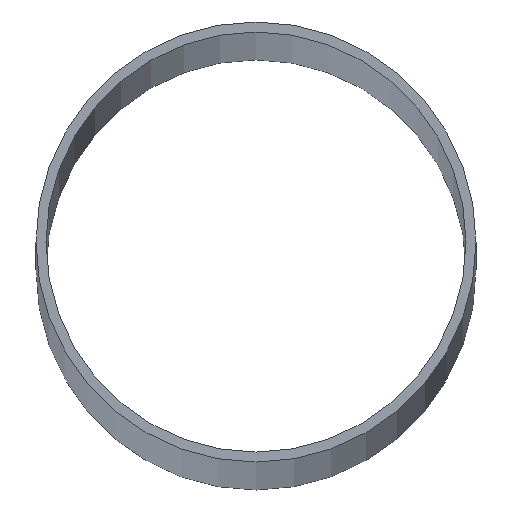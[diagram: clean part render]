
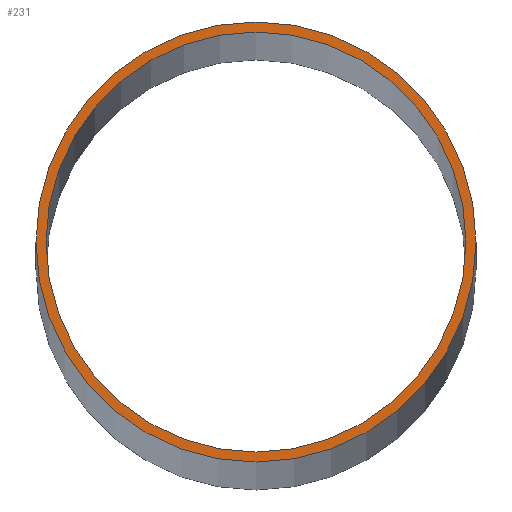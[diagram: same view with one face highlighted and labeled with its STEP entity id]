
A CAD part, top view. The second image highlights one B-rep face of the part: STEP entity #231.
In plain terms, the highlighted planar face has unit normal (0, 0, 1).
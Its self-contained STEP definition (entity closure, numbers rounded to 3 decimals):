
#3 = EDGE_CURVE ( 'NONE', #205, #198, #151, .T. ) ;
#4 = EDGE_CURVE ( 'NONE', #198, #205, #159, .T. ) ;
#15 = AXIS2_PLACEMENT_3D ( 'NONE', #136, #72, #48 ) ;
#16 = EDGE_CURVE ( 'NONE', #157, #225, #150, .T. ) ;
#28 = EDGE_CURVE ( 'NONE', #225, #157, #179, .T. ) ;
#34 = AXIS2_PLACEMENT_3D ( 'NONE', #66, #67, #65 ) ;
#35 = AXIS2_PLACEMENT_3D ( 'NONE', #97, #69, #78 ) ;
#36 = AXIS2_PLACEMENT_3D ( 'NONE', #76, #73, #83 ) ;
#38 = AXIS2_PLACEMENT_3D ( 'NONE', #80, #58, #59 ) ;
#48 = DIRECTION ( 'NONE',  ( 1., 0., 0. ) ) ;
#55 = CARTESIAN_POINT ( 'NONE',  ( -55., 0., 4000. ) ) ;
#58 = DIRECTION ( 'NONE',  ( 0., 0., 1. ) ) ;
#59 = DIRECTION ( 'NONE',  ( -1., 0., 0. ) ) ;
#65 = DIRECTION ( 'NONE',  ( -1., 0., 0. ) ) ;
#66 = CARTESIAN_POINT ( 'NONE',  ( 0., 0., 4000. ) ) ;
#67 = DIRECTION ( 'NONE',  ( 0., 0., 1. ) ) ;
#69 = DIRECTION ( 'NONE',  ( 0., 0., 1. ) ) ;
#72 = DIRECTION ( 'NONE',  ( 0., 0., 1. ) ) ;
#73 = DIRECTION ( 'NONE',  ( 0., 0., 1. ) ) ;
#76 = CARTESIAN_POINT ( 'NONE',  ( 0., 0., 4000. ) ) ;
#78 = DIRECTION ( 'NONE',  ( -1., 0., 0. ) ) ;
#79 = CARTESIAN_POINT ( 'NONE',  ( 52.5, 0., 4000. ) ) ;
#80 = CARTESIAN_POINT ( 'NONE',  ( 0., 0., 4000. ) ) ;
#83 = DIRECTION ( 'NONE',  ( -1., 0., 0. ) ) ;
#97 = CARTESIAN_POINT ( 'NONE',  ( 0., 0., 4000. ) ) ;
#115 = CARTESIAN_POINT ( 'NONE',  ( -52.5, 0., 4000. ) ) ;
#136 = CARTESIAN_POINT ( 'NONE',  ( -55.66, -55.66, 4000. ) ) ;
#140 = CARTESIAN_POINT ( 'NONE',  ( 55., 0., 4000. ) ) ;
#143 = PLANE ( 'NONE',  #15 ) ;
#150 = CIRCLE ( 'NONE', #35, 55. ) ;
#151 = CIRCLE ( 'NONE', #34, 52.5 ) ;
#157 = VERTEX_POINT ( 'NONE', #55 ) ;
#159 = CIRCLE ( 'NONE', #36, 52.5 ) ;
#171 = ORIENTED_EDGE ( 'NONE', *, *, #16, .T. ) ;
#179 = CIRCLE ( 'NONE', #38, 55. ) ;
#180 = FACE_OUTER_BOUND ( 'NONE', #202, .T. ) ;
#195 = ORIENTED_EDGE ( 'NONE', *, *, #28, .T. ) ;
#198 = VERTEX_POINT ( 'NONE', #79 ) ;
#199 = ORIENTED_EDGE ( 'NONE', *, *, #4, .F. ) ;
#201 = FACE_BOUND ( 'NONE', #210, .T. ) ;
#202 = EDGE_LOOP ( 'NONE', ( #171, #195 ) ) ;
#205 = VERTEX_POINT ( 'NONE', #115 ) ;
#206 = ORIENTED_EDGE ( 'NONE', *, *, #3, .F. ) ;
#210 = EDGE_LOOP ( 'NONE', ( #206, #199 ) ) ;
#225 = VERTEX_POINT ( 'NONE', #140 ) ;
#231 = ADVANCED_FACE ( 'NONE', ( #201, #180 ), #143, .T. ) ;
